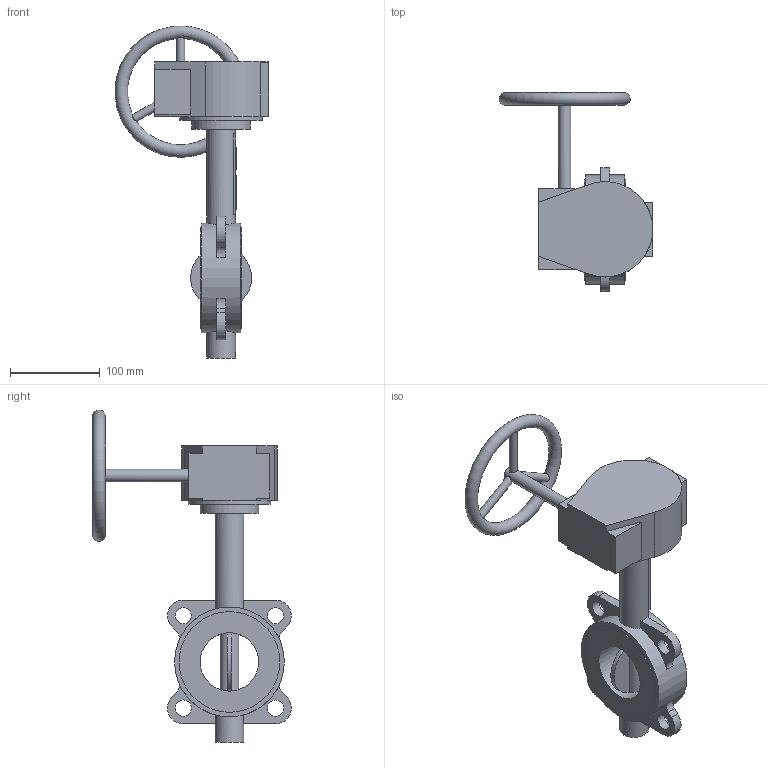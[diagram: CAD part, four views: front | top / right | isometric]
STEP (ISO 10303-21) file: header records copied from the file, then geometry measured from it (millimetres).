
FILE_DESCRIPTION(('STEP AP203'), '1');
FILE_NAME('青蜮铕 017WDN65 疱潴牝铕', '', ('UNSPECIFIED'), ('UNSPECIFIED'), 'ASCON STEP Converter 1.6', 'ASCON Math Kernel', '');
FILE_SCHEMA(('CONFIG_CONTROL_DESIGN'));
Length unit declared in the file: millimetre
Bounding box: 170.77 x 220.74 x 368.97 mm (x, y, z)
Volume: 807275.3 mm3; surface area: 167080.5 mm2
Topology: 1 solids, 2 shells, 657 faces, 1919 edges, 1234 vertices
Faces by surface type: cylinder 457, plane 199, torus 1
Full cylindrical faces by diameter (mm): 6.7 x4, 8 x4, 9 x3, 12.6 x1, 14 x1, 18 x4, 32 x2, 35 x1, 65 x2, 92 x1, 112 x2, 122 x1
Entity records: 29147 total; most frequent: CARTESIAN_POINT 5670, DIRECTION 4131, ORIENTED_EDGE 3719, EDGE_CURVE 1891, AXIS2_PLACEMENT_3D 1618, VERTEX_POINT 1233, CIRCLE 960, LINE 895
